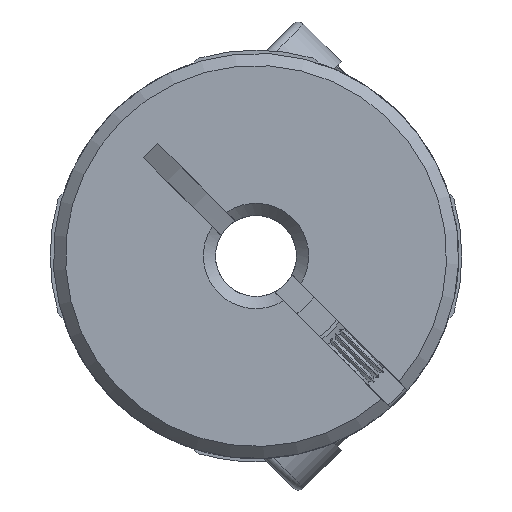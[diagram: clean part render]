
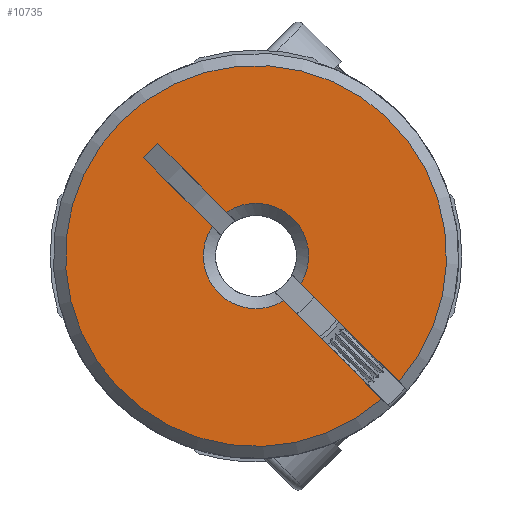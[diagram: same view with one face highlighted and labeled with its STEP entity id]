
A CAD part, front view. The second image highlights one B-rep face of the part: STEP entity #10735.
In plain terms, the highlighted planar face has unit normal (0, -1, 0).
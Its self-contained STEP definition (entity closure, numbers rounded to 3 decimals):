
#75 = DIRECTION ( 'NONE',  ( -0.707, 0., -0.707 ) ) ;
#439 = ORIENTED_EDGE ( 'NONE', *, *, #4167, .T. ) ;
#442 = CARTESIAN_POINT ( 'NONE',  ( 7.058, -12.6, -6.209 ) ) ;
#569 = EDGE_CURVE ( 'NONE', #1861, #8927, #11951, .T. ) ;
#1006 = DIRECTION ( 'NONE',  ( -0.707, 0., 0.707 ) ) ;
#1169 = CARTESIAN_POINT ( 'NONE',  ( -1.451, -12.6, 2.158 ) ) ;
#1183 = VECTOR ( 'NONE', #1006, 1000. ) ;
#1431 = ORIENTED_EDGE ( 'NONE', *, *, #12463, .T. ) ;
#1435 = EDGE_CURVE ( 'NONE', #2471, #7606, #8247, .T. ) ;
#1671 = EDGE_CURVE ( 'NONE', #2471, #8927, #2980, .T. ) ;
#1861 = VERTEX_POINT ( 'NONE', #9937 ) ;
#1956 = DIRECTION ( 'NONE',  ( 0.707, 0., -0.707 ) ) ;
#2031 = DIRECTION ( 'NONE',  ( 0.707, 0., -0.707 ) ) ;
#2177 = DIRECTION ( 'NONE',  ( 0.707, 0., -0.707 ) ) ;
#2199 = VECTOR ( 'NONE', #6705, 1000. ) ;
#2222 = CIRCLE ( 'NONE', #8575, 9.4 ) ;
#2255 = CARTESIAN_POINT ( 'NONE',  ( 1.365, -12.6, -2.213 ) ) ;
#2384 = AXIS2_PLACEMENT_3D ( 'NONE', #2981, #11150, #2031 ) ;
#2471 = VERTEX_POINT ( 'NONE', #2255 ) ;
#2947 = ORIENTED_EDGE ( 'NONE', *, *, #9064, .T. ) ;
#2980 = CIRCLE ( 'NONE', #2384, 2.6 ) ;
#2981 = CARTESIAN_POINT ( 'NONE',  ( 0., -12.6, 0. ) ) ;
#3556 = DIRECTION ( 'NONE',  ( 0.707, 0., -0.707 ) ) ;
#3813 = AXIS2_PLACEMENT_3D ( 'NONE', #9153, #6133, #2177 ) ;
#4167 = EDGE_CURVE ( 'NONE', #4234, #7562, #8515, .T. ) ;
#4180 = CARTESIAN_POINT ( 'NONE',  ( 1.773, -12.6, -0.925 ) ) ;
#4202 = CARTESIAN_POINT ( 'NONE',  ( 0., -12.6, 0. ) ) ;
#4234 = VERTEX_POINT ( 'NONE', #10747 ) ;
#4716 = ORIENTED_EDGE ( 'NONE', *, *, #1435, .F. ) ;
#4804 = DIRECTION ( 'NONE',  ( 0., -1., 0. ) ) ;
#5638 = AXIS2_PLACEMENT_3D ( 'NONE', #4202, #9367, #10275 ) ;
#6133 = DIRECTION ( 'NONE',  ( 0., 1., 0. ) ) ;
#6705 = DIRECTION ( 'NONE',  ( 0.707, 0., -0.707 ) ) ;
#6937 = EDGE_CURVE ( 'NONE', #8148, #9530, #13099, .T. ) ;
#7562 = VERTEX_POINT ( 'NONE', #1169 ) ;
#7606 = VERTEX_POINT ( 'NONE', #11254 ) ;
#8148 = VERTEX_POINT ( 'NONE', #442 ) ;
#8192 = CIRCLE ( 'NONE', #5638, 2.6 ) ;
#8247 = LINE ( 'NONE', #11658, #2199 ) ;
#8515 = LINE ( 'NONE', #9638, #11081 ) ;
#8535 = DIRECTION ( 'NONE',  ( 0.707, 0., -0.707 ) ) ;
#8575 = AXIS2_PLACEMENT_3D ( 'NONE', #12898, #4804, #1956 ) ;
#8793 = CARTESIAN_POINT ( 'NONE',  ( 2.213, -12.6, -1.365 ) ) ;
#8927 = VERTEX_POINT ( 'NONE', #11634 ) ;
#9064 = EDGE_CURVE ( 'NONE', #8148, #7606, #2222, .T. ) ;
#9125 = CARTESIAN_POINT ( 'NONE',  ( -4.842, -12.6, 5.549 ) ) ;
#9153 = CARTESIAN_POINT ( 'NONE',  ( 342.528, -12.6, 364.579 ) ) ;
#9195 = PLANE ( 'NONE',  #3813 ) ;
#9219 = EDGE_LOOP ( 'NONE', ( #439, #1431, #11053, #2947, #4716, #9610, #10736, #10239 ) ) ;
#9367 = DIRECTION ( 'NONE',  ( 0., 1., 0. ) ) ;
#9530 = VERTEX_POINT ( 'NONE', #8793 ) ;
#9610 = ORIENTED_EDGE ( 'NONE', *, *, #1671, .T. ) ;
#9638 = CARTESIAN_POINT ( 'NONE',  ( 5.657, -12.6, -4.95 ) ) ;
#9937 = CARTESIAN_POINT ( 'NONE',  ( -5.549, -12.6, 4.842 ) ) ;
#10206 = EDGE_CURVE ( 'NONE', #4234, #1861, #12540, .T. ) ;
#10239 = ORIENTED_EDGE ( 'NONE', *, *, #10206, .F. ) ;
#10275 = DIRECTION ( 'NONE',  ( 0.707, 0., -0.707 ) ) ;
#10735 = ADVANCED_FACE ( 'NONE', ( #13170 ), #9195, .F. ) ;
#10736 = ORIENTED_EDGE ( 'NONE', *, *, #569, .F. ) ;
#10747 = CARTESIAN_POINT ( 'NONE',  ( -4.842, -12.6, 5.549 ) ) ;
#10839 = VECTOR ( 'NONE', #8535, 1000. ) ;
#11053 = ORIENTED_EDGE ( 'NONE', *, *, #6937, .F. ) ;
#11081 = VECTOR ( 'NONE', #3556, 1000. ) ;
#11150 = DIRECTION ( 'NONE',  ( 0., 1., 0. ) ) ;
#11254 = CARTESIAN_POINT ( 'NONE',  ( 6.209, -12.6, -7.058 ) ) ;
#11613 = VECTOR ( 'NONE', #75, 1000. ) ;
#11634 = CARTESIAN_POINT ( 'NONE',  ( -2.158, -12.6, 1.451 ) ) ;
#11658 = CARTESIAN_POINT ( 'NONE',  ( 0.925, -12.6, -1.773 ) ) ;
#11667 = CARTESIAN_POINT ( 'NONE',  ( 4.95, -12.6, -5.657 ) ) ;
#11951 = LINE ( 'NONE', #11667, #10839 ) ;
#12463 = EDGE_CURVE ( 'NONE', #7562, #9530, #8192, .T. ) ;
#12540 = LINE ( 'NONE', #9125, #11613 ) ;
#12898 = CARTESIAN_POINT ( 'NONE',  ( 0., -12.6, 0. ) ) ;
#13099 = LINE ( 'NONE', #4180, #1183 ) ;
#13170 = FACE_OUTER_BOUND ( 'NONE', #9219, .T. ) ;
